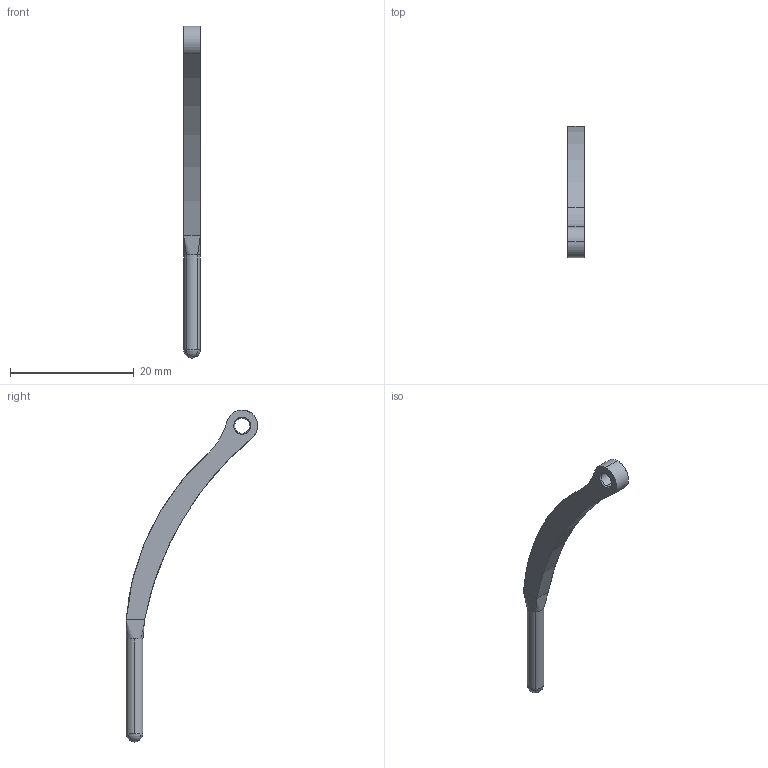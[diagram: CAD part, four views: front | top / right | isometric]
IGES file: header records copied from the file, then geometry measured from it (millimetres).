
Start section: SolidWorks IGES file using analytic representation for surfaces
Global section: file name: \\PSSILO\catalogs\CONTENTCENTRAL\Hammer strut\Cache\D2E5955E-8EE9-4002-9BF3-C6AC6C553420.IGS; native system: SolidWorks 2009; preprocessor: SolidWorks 2009; author: partstream; date: 090716.110950; units: inch
Bounding box: 2.72 x 21.3 x 53.72 mm (x, y, z)
Surface area: 684.3 mm2 (no closed solid volume)
Topology: 0 solids, 0 shells, 27 faces, 257 edges, 252 vertices
Faces by surface type: revolution 21, bspline 6
